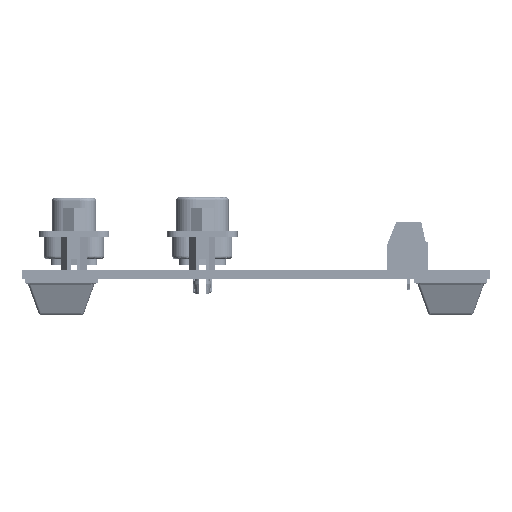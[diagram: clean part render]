
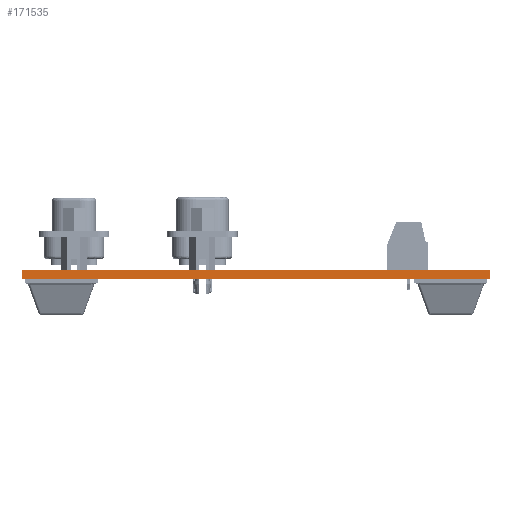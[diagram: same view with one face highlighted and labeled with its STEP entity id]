
A CAD part, front view. The second image highlights one B-rep face of the part: STEP entity #171535.
In plain terms, the highlighted planar face has unit normal (0, -1, 0).
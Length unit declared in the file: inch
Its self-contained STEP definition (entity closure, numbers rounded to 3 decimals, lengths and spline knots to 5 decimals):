
#4518 = DIRECTION ( 'NONE',  ( 1., 0., 0. ) ) ;
#30063 = CARTESIAN_POINT ( 'NONE',  ( 26.38, 0.894, 0. ) ) ;
#33471 = EDGE_CURVE ( 'NONE', #179537, #199152, #142455, .T. ) ;
#35147 = EDGE_CURVE ( 'NONE', #87718, #87623, #69034, .T. ) ;
#47151 = DIRECTION ( 'NONE',  ( 0., 0., 1. ) ) ;
#47538 = VECTOR ( 'NONE', #193854, 39.37008 ) ;
#52888 = CARTESIAN_POINT ( 'NONE',  ( 0., 0.894, 0. ) ) ;
#57799 = EDGE_CURVE ( 'NONE', #199152, #87623, #89321, .T. ) ;
#58503 = VECTOR ( 'NONE', #4518, 39.37008 ) ;
#69034 = LINE ( 'NONE', #52888, #58503 ) ;
#71825 = CARTESIAN_POINT ( 'NONE',  ( 23.1, 0.894, 0. ) ) ;
#74281 = EDGE_CURVE ( 'NONE', #179537, #87718, #146073, .T. ) ;
#80176 = FACE_OUTER_BOUND ( 'NONE', #85157, .T. ) ;
#80375 = ORIENTED_EDGE ( 'NONE', *, *, #57799, .F. ) ;
#84362 = CARTESIAN_POINT ( 'NONE',  ( 26.38, 0.894, 0.0625 ) ) ;
#85157 = EDGE_LOOP ( 'NONE', ( #192906, #80375, #217623, #161717 ) ) ;
#87623 = VERTEX_POINT ( 'NONE', #30063 ) ;
#87718 = VERTEX_POINT ( 'NONE', #71825 ) ;
#89321 = LINE ( 'NONE', #159372, #160718 ) ;
#95625 = CARTESIAN_POINT ( 'NONE',  ( 0., 0.894, 0.0625 ) ) ;
#113302 = DIRECTION ( 'NONE',  ( 0., 1., 0. ) ) ;
#126089 = CARTESIAN_POINT ( 'NONE',  ( 23.1, 0.894, 0.0625 ) ) ;
#140752 = VECTOR ( 'NONE', #160877, 39.37008 ) ;
#142455 = LINE ( 'NONE', #95625, #47538 ) ;
#146073 = LINE ( 'NONE', #126089, #140752 ) ;
#159372 = CARTESIAN_POINT ( 'NONE',  ( 26.38, 0.894, 0.0625 ) ) ;
#160718 = VECTOR ( 'NONE', #211625, 39.37008 ) ;
#160877 = DIRECTION ( 'NONE',  ( 0., 0., -1. ) ) ;
#161717 = ORIENTED_EDGE ( 'NONE', *, *, #74281, .T. ) ;
#162533 = CARTESIAN_POINT ( 'NONE',  ( 23.1, 0.894, 0.0625 ) ) ;
#171535 = ADVANCED_FACE ( 'NONE', ( #80176 ), #200403, .F. ) ;
#179537 = VERTEX_POINT ( 'NONE', #162533 ) ;
#192906 = ORIENTED_EDGE ( 'NONE', *, *, #35147, .T. ) ;
#193854 = DIRECTION ( 'NONE',  ( 1., 0., 0. ) ) ;
#197585 = AXIS2_PLACEMENT_3D ( 'NONE', #215147, #113302, #47151 ) ;
#199152 = VERTEX_POINT ( 'NONE', #84362 ) ;
#200403 = PLANE ( 'NONE',  #197585 ) ;
#211625 = DIRECTION ( 'NONE',  ( 0., 0., -1. ) ) ;
#215147 = CARTESIAN_POINT ( 'NONE',  ( 0., 0.894, 0.0625 ) ) ;
#217623 = ORIENTED_EDGE ( 'NONE', *, *, #33471, .F. ) ;
